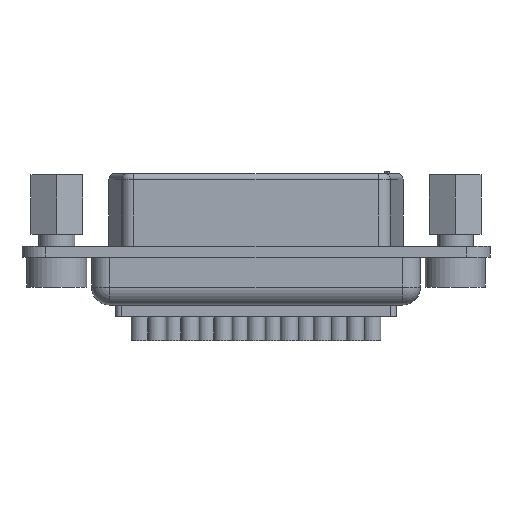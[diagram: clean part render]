
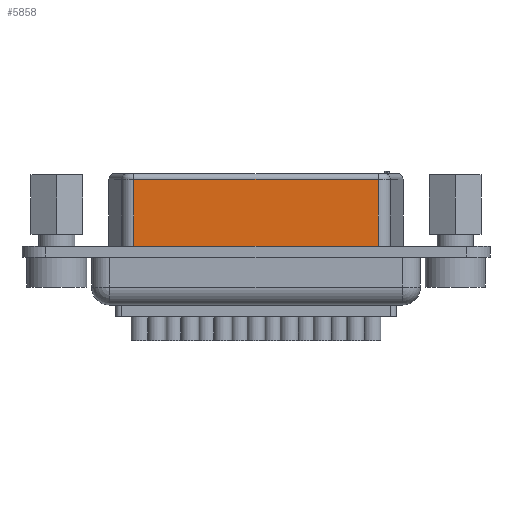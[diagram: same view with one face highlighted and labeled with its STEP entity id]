
A CAD part, front view. The second image highlights one B-rep face of the part: STEP entity #5858.
In plain terms, the highlighted planar face has unit normal (0, -1, 0).
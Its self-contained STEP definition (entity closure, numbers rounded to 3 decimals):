
#5781 = VERTEX_POINT ( 'NONE', #7880 ) ;
#5783 = EDGE_CURVE ( 'NONE', #5784, #5781, #7879, .T. ) ;
#5784 = VERTEX_POINT ( 'NONE', #7875 ) ;
#5839 = ORIENTED_EDGE ( 'NONE', *, *, #5852, .T. ) ;
#5840 = ORIENTED_EDGE ( 'NONE', *, *, #5783, .T. ) ;
#5852 = EDGE_CURVE ( 'NONE', #5853, #5784, #8096, .T. ) ;
#5853 = VERTEX_POINT ( 'NONE', #8092 ) ;
#5858 = ADVANCED_FACE ( 'NONE', ( #8085 ), #8130, .F. ) ;
#5859 = EDGE_LOOP ( 'NONE', ( #5860, #5863, #5839, #5840 ) ) ;
#5860 = ORIENTED_EDGE ( 'NONE', *, *, #5861, .F. ) ;
#5861 = EDGE_CURVE ( 'NONE', #5862, #5781, #8125, .T. ) ;
#5862 = VERTEX_POINT ( 'NONE', #8121 ) ;
#5863 = ORIENTED_EDGE ( 'NONE', *, *, #5864, .T. ) ;
#5864 = EDGE_CURVE ( 'NONE', #5862, #5853, #8120, .T. ) ;
#7875 = CARTESIAN_POINT ( 'NONE',  ( -10.242, -4., 0. ) ) ;
#7876 = DIRECTION ( 'NONE',  ( 1., 0., 0. ) ) ;
#7877 = VECTOR ( 'NONE', #7876, 1000. ) ;
#7878 = CARTESIAN_POINT ( 'NONE',  ( -10.242, -4., 0. ) ) ;
#7879 = LINE ( 'NONE', #7878, #7877 ) ;
#7880 = CARTESIAN_POINT ( 'NONE',  ( 10.242, -4., 0. ) ) ;
#8085 = FACE_OUTER_BOUND ( 'NONE', #5859, .T. ) ;
#8092 = CARTESIAN_POINT ( 'NONE',  ( -10.242, -4., 5.6 ) ) ;
#8093 = DIRECTION ( 'NONE',  ( 0., 0., -1. ) ) ;
#8094 = VECTOR ( 'NONE', #8093, 1000. ) ;
#8095 = CARTESIAN_POINT ( 'NONE',  ( -10.242, -4., 6.1 ) ) ;
#8096 = LINE ( 'NONE', #8095, #8094 ) ;
#8117 = DIRECTION ( 'NONE',  ( -1., 0., 0. ) ) ;
#8118 = VECTOR ( 'NONE', #8117, 1000. ) ;
#8119 = CARTESIAN_POINT ( 'NONE',  ( -10.242, -4., 5.6 ) ) ;
#8120 = LINE ( 'NONE', #8119, #8118 ) ;
#8121 = CARTESIAN_POINT ( 'NONE',  ( 10.242, -4., 5.6 ) ) ;
#8122 = DIRECTION ( 'NONE',  ( 0., 0., -1. ) ) ;
#8123 = VECTOR ( 'NONE', #8122, 1000. ) ;
#8124 = CARTESIAN_POINT ( 'NONE',  ( 10.242, -4., 6.1 ) ) ;
#8125 = LINE ( 'NONE', #8124, #8123 ) ;
#8126 = DIRECTION ( 'NONE',  ( 0., 0., 1. ) ) ;
#8127 = DIRECTION ( 'NONE',  ( 0., 1., 0. ) ) ;
#8128 = CARTESIAN_POINT ( 'NONE',  ( -10.242, -4., 6.1 ) ) ;
#8129 = AXIS2_PLACEMENT_3D ( 'NONE', #8128, #8127, #8126 ) ;
#8130 = PLANE ( 'NONE',  #8129 ) ;
